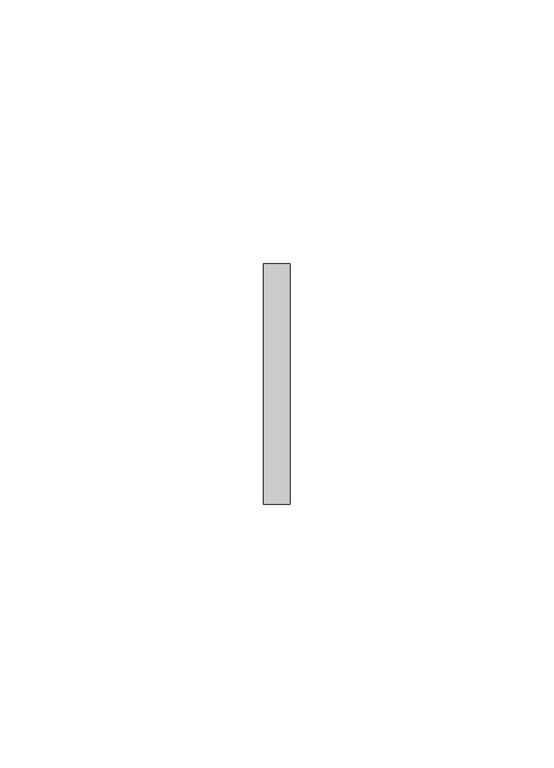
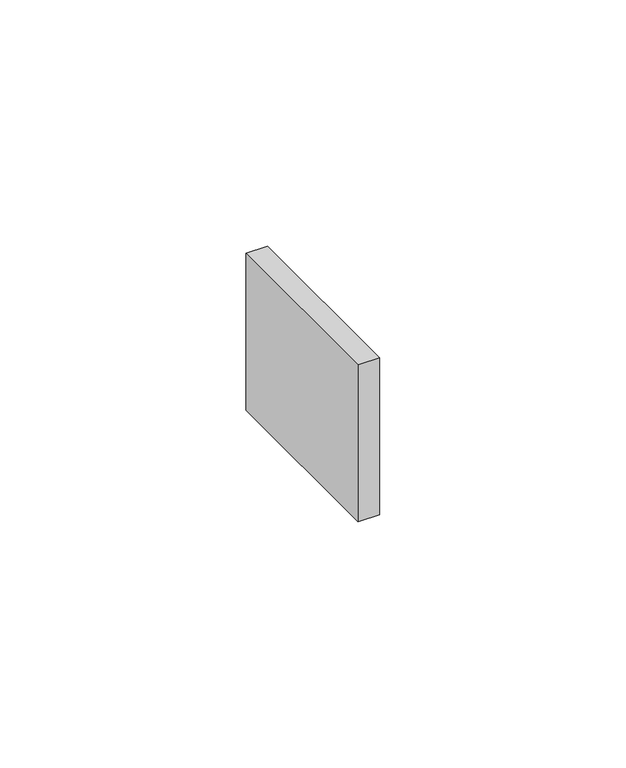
"""IFC4 building model written with IfcOpenShell, lengths in millimetres: proxy geometry, Odbojniki - OPW10 : Odbojniki - OPW10."""

from ifc_helpers import new_model, si_unit, frame, origin, place, context, project, spatial, polyline, outline, extrude, source, transform, mapped, element, save


def generic_models_bb91551f(model_context):
    return source(origin(), model_context, "Body", "SweptSolid", [
        extrude(outline(polyline([(2.5, 22.3707862), (2.5, -23.1092138), (-2.5, -23.1092138), (-2.5, 22.3707862), (2.5, 22.3707862)])), frame((0.0, 0.0, -3.4220113), z_axis=(0.0, 0.0, 1.0), x_axis=(1.0, 0.0, 0.0)), (0.0, 0.0, 1.0), 38.9029188),
    ])


if __name__ == "__main__":
    model = new_model("IFC4")
    model_context = context("Model", 3, world=origin())
    ifc_project = project(units=[si_unit("LENGTHUNIT", "METRE", prefix="MILLI")], contexts=[model_context])
    site = spatial("IfcSite", under=ifc_project)
    building = spatial("IfcBuilding", under=site)
    placement = place(None, origin())
    generic_models_shape = generic_models_bb91551f(model_context)
    element("IfcBuildingElementProxy", 1, Name="Odbojniki - OPW10 : Odbojniki - OPW10", ObjectType="Odbojniki - OPW10 : Odbojniki - OPW10", at=placement, inside=building, context=model_context, shape_type="MappedRepresentation", body=[
        mapped(generic_models_shape, transform((0.0, 0.0, 0.0), x_axis=(1.0, 0.0, 0.0), y_axis=(0.0, 1.0, 0.0), z_axis=(0.0, 0.0, 1.0))),
    ])
    save(model, "model.ifc")
